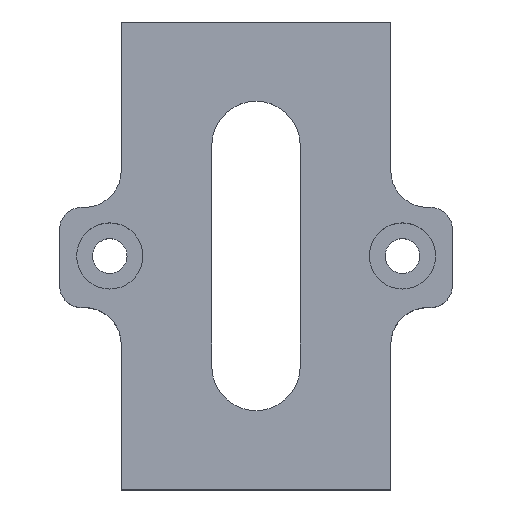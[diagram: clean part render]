
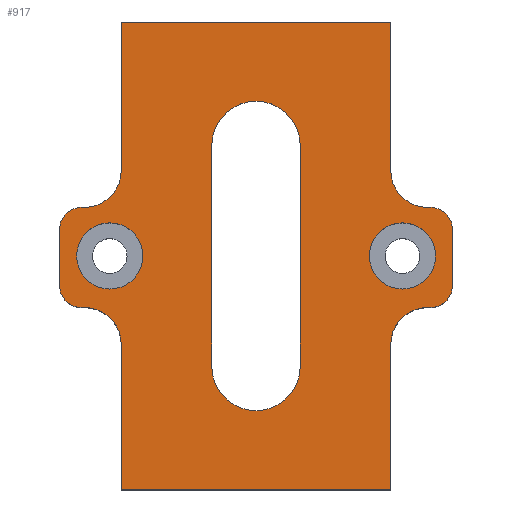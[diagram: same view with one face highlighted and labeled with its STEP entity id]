
A CAD part, top view. The second image highlights one B-rep face of the part: STEP entity #917.
In plain terms, the highlighted planar face has unit normal (0, 0.002, 1).
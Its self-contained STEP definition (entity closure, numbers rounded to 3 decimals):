
#407=CARTESIAN_POINT('',(-11.35,130.905,40.563));
#408=VERTEX_POINT('',#407);
#415=CARTESIAN_POINT('',(-11.15,130.905,40.563));
#416=VERTEX_POINT('',#415);
#417=CARTESIAN_POINT('',(-11.15,130.905,40.563));
#418=DIRECTION('',(-1.,0.,0.));
#419=VECTOR('',#418,0.2);
#420=LINE('',#417,#419);
#421=EDGE_CURVE('',#416,#408,#420,.T.);
#438=CARTESIAN_POINT('',(-12.75,125.805,40.571));
#439=VERTEX_POINT('',#438);
#446=CARTESIAN_POINT('',(-12.75,129.505,40.565));
#447=VERTEX_POINT('',#446);
#448=CARTESIAN_POINT('',(-12.75,129.505,40.565));
#449=DIRECTION('',(0.,-1.,0.002));
#450=VECTOR('',#449,3.7);
#451=LINE('',#448,#450);
#452=EDGE_CURVE('',#447,#439,#451,.T.);
#468=CARTESIAN_POINT('',(-11.35,124.405,40.573));
#469=VERTEX_POINT('',#468);
#470=CARTESIAN_POINT('',(-11.15,124.405,40.573));
#471=VERTEX_POINT('',#470);
#472=CARTESIAN_POINT('',(-11.35,124.405,40.573));
#473=DIRECTION('',(1.,-0.,-0.));
#474=VECTOR('',#473,0.2);
#475=LINE('',#472,#474);
#476=EDGE_CURVE('',#469,#471,#475,.T.);
#508=CARTESIAN_POINT('',(-8.75,112.562,40.592));
#509=VERTEX_POINT('',#508);
#516=CARTESIAN_POINT('',(-8.75,122.005,40.577));
#517=VERTEX_POINT('',#516);
#518=CARTESIAN_POINT('',(-8.75,122.005,40.577));
#519=DIRECTION('',(0.,-1.,0.002));
#520=VECTOR('',#519,9.443);
#521=LINE('',#518,#520);
#522=EDGE_CURVE('',#517,#509,#521,.T.);
#547=CARTESIAN_POINT('',(8.75,112.562,40.592));
#548=VERTEX_POINT('',#547);
#555=CARTESIAN_POINT('',(-8.75,112.562,40.592));
#556=DIRECTION('',(1.,-0.,-0.));
#557=VECTOR('',#556,17.5);
#558=LINE('',#555,#557);
#559=EDGE_CURVE('',#509,#548,#558,.T.);
#577=CARTESIAN_POINT('',(8.75,122.005,40.577));
#578=VERTEX_POINT('',#577);
#585=CARTESIAN_POINT('',(8.75,112.562,40.592));
#586=DIRECTION('',(-0.,1.,-0.002));
#587=VECTOR('',#586,9.443);
#588=LINE('',#585,#587);
#589=EDGE_CURVE('',#548,#578,#588,.T.);
#600=CARTESIAN_POINT('',(11.35,124.405,40.573));
#601=VERTEX_POINT('',#600);
#608=CARTESIAN_POINT('',(11.15,124.405,40.573));
#609=VERTEX_POINT('',#608);
#610=CARTESIAN_POINT('',(11.15,124.405,40.573));
#611=DIRECTION('',(1.,-0.,-0.));
#612=VECTOR('',#611,0.2);
#613=LINE('',#610,#612);
#614=EDGE_CURVE('',#609,#601,#613,.T.);
#631=CARTESIAN_POINT('',(12.75,129.505,40.565));
#632=VERTEX_POINT('',#631);
#639=CARTESIAN_POINT('',(12.75,125.805,40.571));
#640=VERTEX_POINT('',#639);
#641=CARTESIAN_POINT('',(12.75,125.805,40.571));
#642=DIRECTION('',(-0.,1.,-0.002));
#643=VECTOR('',#642,3.7);
#644=LINE('',#641,#643);
#645=EDGE_CURVE('',#640,#632,#644,.T.);
#661=CARTESIAN_POINT('',(11.35,130.905,40.563));
#662=VERTEX_POINT('',#661);
#663=CARTESIAN_POINT('',(11.15,130.905,40.563));
#664=VERTEX_POINT('',#663);
#665=CARTESIAN_POINT('',(11.35,130.905,40.563));
#666=DIRECTION('',(-1.,0.,0.));
#667=VECTOR('',#666,0.2);
#668=LINE('',#665,#667);
#669=EDGE_CURVE('',#662,#664,#668,.T.);
#692=CARTESIAN_POINT('',(8.75,133.305,40.559));
#693=VERTEX_POINT('',#692);
#694=CARTESIAN_POINT('',(8.75,142.948,40.544));
#695=VERTEX_POINT('',#694);
#696=CARTESIAN_POINT('',(8.75,133.305,40.559));
#697=DIRECTION('',(-0.,1.,-0.002));
#698=VECTOR('',#697,9.643);
#699=LINE('',#696,#698);
#700=EDGE_CURVE('',#693,#695,#699,.T.);
#723=CARTESIAN_POINT('',(-8.75,142.948,40.544));
#724=VERTEX_POINT('',#723);
#725=CARTESIAN_POINT('',(8.75,142.948,40.544));
#726=DIRECTION('',(-1.,0.,0.));
#727=VECTOR('',#726,17.5);
#728=LINE('',#725,#727);
#729=EDGE_CURVE('',#695,#724,#728,.T.);
#748=CARTESIAN_POINT('',(-8.75,133.305,40.559));
#749=VERTEX_POINT('',#748);
#756=CARTESIAN_POINT('',(-8.75,133.305,40.559));
#757=DIRECTION('',(0.,1.,-0.002));
#758=VECTOR('',#757,9.643);
#759=LINE('',#756,#758);
#760=EDGE_CURVE('',#749,#724,#759,.T.);
#766=CARTESIAN_POINT('',(0.,0.065,40.771));
#767=DIRECTION('',(0.,0.002,1.));
#768=DIRECTION('',(-1.,0.,0.));
#769=AXIS2_PLACEMENT_3D('',#766,#767,#768);
#770=PLANE('',#769);
#771=CARTESIAN_POINT('',(-2.875,134.905,40.557));
#772=VERTEX_POINT('',#771);
#773=CARTESIAN_POINT('',(0.,137.805,40.552));
#774=VERTEX_POINT('',#773);
#775=CARTESIAN_POINT('',(0.025,134.905,40.557));
#776=DIRECTION('',(0.,-0.002,-1.));
#777=DIRECTION('',(0.,1.,-0.002));
#778=AXIS2_PLACEMENT_3D('',#775,#776,#777);
#779=CIRCLE('',#778,2.9);
#780=EDGE_CURVE('',#772,#774,#779,.T.);
#781=ORIENTED_EDGE('',*,*,#780,.T.);
#782=CARTESIAN_POINT('',(2.875,134.905,40.557));
#783=VERTEX_POINT('',#782);
#784=CARTESIAN_POINT('',(-0.025,134.905,40.557));
#785=DIRECTION('',(0.,-0.002,-1.));
#786=DIRECTION('',(0.,1.,-0.002));
#787=AXIS2_PLACEMENT_3D('',#784,#785,#786);
#788=CIRCLE('',#787,2.9);
#789=EDGE_CURVE('',#774,#783,#788,.T.);
#790=ORIENTED_EDGE('',*,*,#789,.T.);
#791=CARTESIAN_POINT('',(2.875,120.605,40.579));
#792=VERTEX_POINT('',#791);
#793=CARTESIAN_POINT('',(2.875,120.605,40.579));
#794=DIRECTION('',(0.,1.,-0.002));
#795=VECTOR('',#794,14.3);
#796=LINE('',#793,#795);
#797=EDGE_CURVE('',#792,#783,#796,.T.);
#798=ORIENTED_EDGE('',*,*,#797,.F.);
#799=CARTESIAN_POINT('',(0.,117.705,40.584));
#800=VERTEX_POINT('',#799);
#801=CARTESIAN_POINT('',(-0.025,120.605,40.579));
#802=DIRECTION('',(0.,-0.002,-1.));
#803=DIRECTION('',(0.,1.,-0.002));
#804=AXIS2_PLACEMENT_3D('',#801,#802,#803);
#805=CIRCLE('',#804,2.9);
#806=EDGE_CURVE('',#792,#800,#805,.T.);
#807=ORIENTED_EDGE('',*,*,#806,.T.);
#808=CARTESIAN_POINT('',(-2.875,120.605,40.579));
#809=VERTEX_POINT('',#808);
#810=CARTESIAN_POINT('',(0.025,120.605,40.579));
#811=DIRECTION('',(0.,-0.002,-1.));
#812=DIRECTION('',(0.,1.,-0.002));
#813=AXIS2_PLACEMENT_3D('',#810,#811,#812);
#814=CIRCLE('',#813,2.9);
#815=EDGE_CURVE('',#800,#809,#814,.T.);
#816=ORIENTED_EDGE('',*,*,#815,.T.);
#817=CARTESIAN_POINT('',(-2.875,134.905,40.557));
#818=DIRECTION('',(0.,-1.,0.002));
#819=VECTOR('',#818,14.3);
#820=LINE('',#817,#819);
#821=EDGE_CURVE('',#772,#809,#820,.T.);
#822=ORIENTED_EDGE('',*,*,#821,.F.);
#823=EDGE_LOOP('',(#781,#790,#798,#807,#816,#822));
#824=FACE_BOUND('',#823,.T.);
#825=CARTESIAN_POINT('',(9.51,125.605,40.571));
#826=VERTEX_POINT('',#825);
#827=CARTESIAN_POINT('',(9.51,127.755,40.568));
#828=DIRECTION('',(0.,0.002,1.));
#829=DIRECTION('',(0.,-1.,0.002));
#830=AXIS2_PLACEMENT_3D('',#827,#828,#829);
#831=CIRCLE('',#830,2.15);
#832=EDGE_CURVE('',#826,#826,#831,.T.);
#833=ORIENTED_EDGE('',*,*,#832,.F.);
#834=EDGE_LOOP('',(#833));
#835=FACE_BOUND('',#834,.T.);
#836=CARTESIAN_POINT('',(-9.5,125.605,40.571));
#837=VERTEX_POINT('',#836);
#838=CARTESIAN_POINT('',(-9.5,127.755,40.568));
#839=DIRECTION('',(0.,0.002,1.));
#840=DIRECTION('',(0.,-1.,0.002));
#841=AXIS2_PLACEMENT_3D('',#838,#839,#840);
#842=CIRCLE('',#841,2.15);
#843=EDGE_CURVE('',#837,#837,#842,.T.);
#844=ORIENTED_EDGE('',*,*,#843,.F.);
#845=EDGE_LOOP('',(#844));
#846=FACE_BOUND('',#845,.T.);
#847=ORIENTED_EDGE('',*,*,#452,.T.);
#848=CARTESIAN_POINT('',(-11.35,125.805,40.571));
#849=DIRECTION('',(0.,0.002,1.));
#850=DIRECTION('',(0.,-1.,0.002));
#851=AXIS2_PLACEMENT_3D('',#848,#849,#850);
#852=CIRCLE('',#851,1.4);
#853=EDGE_CURVE('',#439,#469,#852,.T.);
#854=ORIENTED_EDGE('',*,*,#853,.T.);
#855=ORIENTED_EDGE('',*,*,#476,.T.);
#856=CARTESIAN_POINT('',(-11.15,122.005,40.577));
#857=DIRECTION('',(0.,-0.002,-1.));
#858=DIRECTION('',(0.,1.,-0.002));
#859=AXIS2_PLACEMENT_3D('',#856,#857,#858);
#860=CIRCLE('',#859,2.4);
#861=EDGE_CURVE('',#471,#517,#860,.T.);
#862=ORIENTED_EDGE('',*,*,#861,.T.);
#863=ORIENTED_EDGE('',*,*,#522,.T.);
#864=ORIENTED_EDGE('',*,*,#559,.T.);
#865=ORIENTED_EDGE('',*,*,#589,.T.);
#866=CARTESIAN_POINT('',(11.15,122.005,40.577));
#867=DIRECTION('',(0.,-0.002,-1.));
#868=DIRECTION('',(0.,1.,-0.002));
#869=AXIS2_PLACEMENT_3D('',#866,#867,#868);
#870=CIRCLE('',#869,2.4);
#871=EDGE_CURVE('',#578,#609,#870,.T.);
#872=ORIENTED_EDGE('',*,*,#871,.T.);
#873=ORIENTED_EDGE('',*,*,#614,.T.);
#874=CARTESIAN_POINT('',(11.35,125.805,40.571));
#875=DIRECTION('',(0.,0.002,1.));
#876=DIRECTION('',(0.,-1.,0.002));
#877=AXIS2_PLACEMENT_3D('',#874,#875,#876);
#878=CIRCLE('',#877,1.4);
#879=EDGE_CURVE('',#601,#640,#878,.T.);
#880=ORIENTED_EDGE('',*,*,#879,.T.);
#881=ORIENTED_EDGE('',*,*,#645,.T.);
#882=CARTESIAN_POINT('',(11.35,129.505,40.565));
#883=DIRECTION('',(0.,0.002,1.));
#884=DIRECTION('',(0.,-1.,0.002));
#885=AXIS2_PLACEMENT_3D('',#882,#883,#884);
#886=CIRCLE('',#885,1.4);
#887=EDGE_CURVE('',#632,#662,#886,.T.);
#888=ORIENTED_EDGE('',*,*,#887,.T.);
#889=ORIENTED_EDGE('',*,*,#669,.T.);
#890=CARTESIAN_POINT('',(11.15,133.305,40.559));
#891=DIRECTION('',(0.,-0.002,-1.));
#892=DIRECTION('',(0.,1.,-0.002));
#893=AXIS2_PLACEMENT_3D('',#890,#891,#892);
#894=CIRCLE('',#893,2.4);
#895=EDGE_CURVE('',#664,#693,#894,.T.);
#896=ORIENTED_EDGE('',*,*,#895,.T.);
#897=ORIENTED_EDGE('',*,*,#700,.T.);
#898=ORIENTED_EDGE('',*,*,#729,.T.);
#899=ORIENTED_EDGE('',*,*,#760,.F.);
#900=CARTESIAN_POINT('',(-11.15,133.305,40.559));
#901=DIRECTION('',(-0.,-0.002,-1.));
#902=DIRECTION('',(0.,-1.,0.002));
#903=AXIS2_PLACEMENT_3D('',#900,#901,#902);
#904=CIRCLE('',#903,2.4);
#905=EDGE_CURVE('',#749,#416,#904,.T.);
#906=ORIENTED_EDGE('',*,*,#905,.T.);
#907=ORIENTED_EDGE('',*,*,#421,.T.);
#908=CARTESIAN_POINT('',(-11.35,129.505,40.565));
#909=DIRECTION('',(0.,0.002,1.));
#910=DIRECTION('',(0.,-1.,0.002));
#911=AXIS2_PLACEMENT_3D('',#908,#909,#910);
#912=CIRCLE('',#911,1.4);
#913=EDGE_CURVE('',#408,#447,#912,.T.);
#914=ORIENTED_EDGE('',*,*,#913,.T.);
#915=EDGE_LOOP('',(#847,#854,#855,#862,#863,#864,#865,#872,#873,#880,#881,#888,#889,#896,#897,#898,#899,#906,#907,#914));
#916=FACE_BOUND('',#915,.T.);
#917=ADVANCED_FACE('',(#824,#835,#846,#916),#770,.T.);
